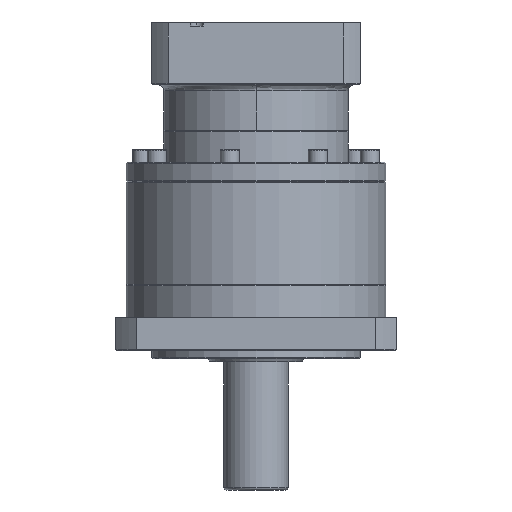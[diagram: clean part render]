
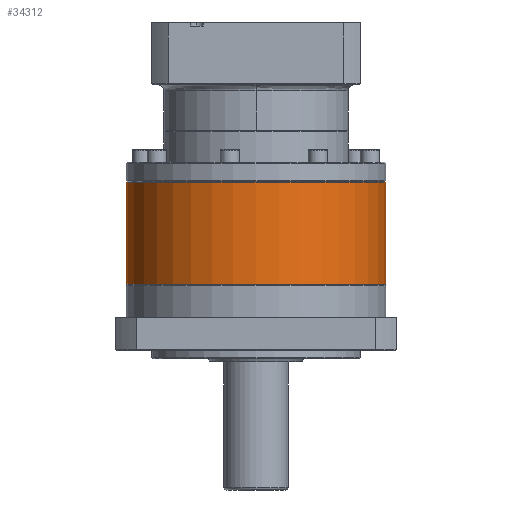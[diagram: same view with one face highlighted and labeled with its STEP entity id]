
A CAD part, left-side view. The second image highlights one B-rep face of the part: STEP entity #34312.
In plain terms, the highlighted cylindrical face has radius 81 mm (diameter 162 mm), a partial arc.
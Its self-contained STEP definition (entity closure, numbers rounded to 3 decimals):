
#2874 = ORIENTED_EDGE ( 'NONE', *, *, #39757, .T. ) ;
#12531 = CARTESIAN_POINT ( 'NONE',  ( -132.241, -39.319, -94.972 ) ) ;
#26010 = VERTEX_POINT ( 'NONE', #51756 ) ;
#30445 = DIRECTION ( 'NONE',  ( 0., 1., 0. ) ) ;
#31085 = AXIS2_PLACEMENT_3D ( 'NONE', #80146, #78658, #87984 ) ;
#32424 = CYLINDRICAL_SURFACE ( 'NONE', #59873, 81. ) ;
#32791 = EDGE_CURVE ( 'NONE', #26010, #93184, #90581, .T. ) ;
#34312 = ADVANCED_FACE ( 'NONE', ( #88619 ), #32424, .T. ) ;
#39757 = EDGE_CURVE ( 'NONE', #79180, #90352, #44797, .T. ) ;
#40306 = VECTOR ( 'NONE', #43561, 1000. ) ;
#40345 = DIRECTION ( 'NONE',  ( 0., 0., -1. ) ) ;
#43561 = DIRECTION ( 'NONE',  ( 0., 0., -1. ) ) ;
#44797 = CIRCLE ( 'NONE', #78597, 81. ) ;
#45186 = CARTESIAN_POINT ( 'NONE',  ( -132.241, 41.681, -94.472 ) ) ;
#48322 = CARTESIAN_POINT ( 'NONE',  ( -132.241, -39.319, -158.472 ) ) ;
#51756 = CARTESIAN_POINT ( 'NONE',  ( -132.241, 122.681, -158.472 ) ) ;
#53866 = EDGE_CURVE ( 'NONE', #79180, #93184, #103875, .T. ) ;
#55780 = EDGE_CURVE ( 'NONE', #90352, #26010, #96485, .T. ) ;
#57030 = DIRECTION ( 'NONE',  ( 0., 0., -1. ) ) ;
#59873 = AXIS2_PLACEMENT_3D ( 'NONE', #45186, #71299, #70582 ) ;
#63859 = CARTESIAN_POINT ( 'NONE',  ( -132.241, 122.681, -94.972 ) ) ;
#67547 = CARTESIAN_POINT ( 'NONE',  ( -132.241, -39.319, -94.472 ) ) ;
#70582 = DIRECTION ( 'NONE',  ( 0., 1., 0. ) ) ;
#71299 = DIRECTION ( 'NONE',  ( 0., 0., -1. ) ) ;
#77960 = CARTESIAN_POINT ( 'NONE',  ( -132.241, 122.681, -94.472 ) ) ;
#78597 = AXIS2_PLACEMENT_3D ( 'NONE', #108171, #57030, #30445 ) ;
#78658 = DIRECTION ( 'NONE',  ( 0., 0., 1. ) ) ;
#79180 = VERTEX_POINT ( 'NONE', #12531 ) ;
#80146 = CARTESIAN_POINT ( 'NONE',  ( -132.241, 41.681, -158.472 ) ) ;
#87831 = ORIENTED_EDGE ( 'NONE', *, *, #55780, .T. ) ;
#87984 = DIRECTION ( 'NONE',  ( 0., 1., 0. ) ) ;
#88619 = FACE_OUTER_BOUND ( 'NONE', #110232, .T. ) ;
#90352 = VERTEX_POINT ( 'NONE', #63859 ) ;
#90581 = CIRCLE ( 'NONE', #31085, 81. ) ;
#93184 = VERTEX_POINT ( 'NONE', #48322 ) ;
#96485 = LINE ( 'NONE', #77960, #40306 ) ;
#98515 = VECTOR ( 'NONE', #40345, 1000. ) ;
#103875 = LINE ( 'NONE', #67547, #98515 ) ;
#106149 = ORIENTED_EDGE ( 'NONE', *, *, #32791, .T. ) ;
#108171 = CARTESIAN_POINT ( 'NONE',  ( -132.241, 41.681, -94.972 ) ) ;
#110045 = ORIENTED_EDGE ( 'NONE', *, *, #53866, .F. ) ;
#110232 = EDGE_LOOP ( 'NONE', ( #110045, #2874, #87831, #106149 ) ) ;
